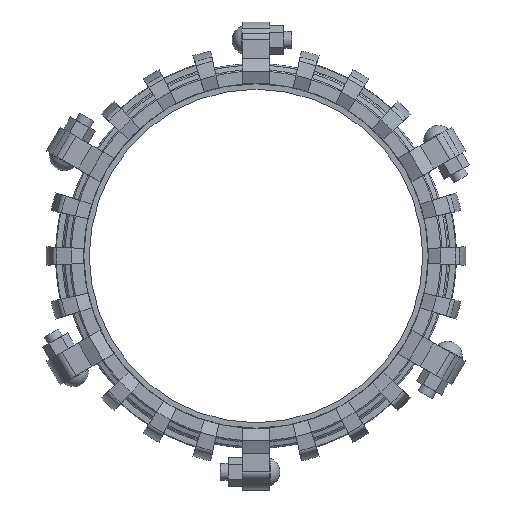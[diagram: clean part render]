
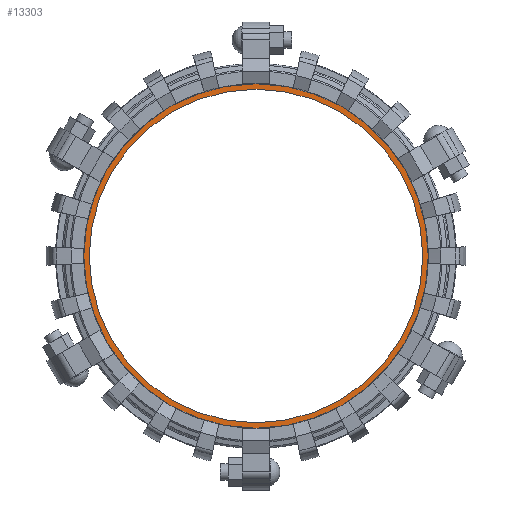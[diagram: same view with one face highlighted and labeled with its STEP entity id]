
A CAD part, top view. The second image highlights one B-rep face of the part: STEP entity #13303.
In plain terms, the highlighted planar face has unit normal (0, 0, 1).
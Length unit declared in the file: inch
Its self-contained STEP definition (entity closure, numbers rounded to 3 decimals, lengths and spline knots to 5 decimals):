
#447=FACE_BOUND('',#1445,.T.);
#481=PLANE('',#14051);
#726=FACE_OUTER_BOUND('',#1444,.T.);
#1444=EDGE_LOOP('',(#8406,#8407));
#1445=EDGE_LOOP('',(#8408));
#4015=CIRCLE('',#14047,15.25);
#4018=CIRCLE('',#14052,16.25);
#4019=CIRCLE('',#14053,16.25);
#5049=VERTEX_POINT('',#20254);
#5052=VERTEX_POINT('',#20263);
#5053=VERTEX_POINT('',#20264);
#6384=EDGE_CURVE('',#5049,#5049,#4015,.T.);
#6387=EDGE_CURVE('',#5052,#5053,#4018,.T.);
#6388=EDGE_CURVE('',#5053,#5052,#4019,.T.);
#8406=ORIENTED_EDGE('',*,*,#6387,.F.);
#8407=ORIENTED_EDGE('',*,*,#6388,.F.);
#8408=ORIENTED_EDGE('',*,*,#6384,.T.);
#13303=ADVANCED_FACE('',(#726,#447),#481,.T.);
#14047=AXIS2_PLACEMENT_3D('',#20256,#15816,#15817);
#14051=AXIS2_PLACEMENT_3D('',#20262,#15824,#15825);
#14052=AXIS2_PLACEMENT_3D('',#20265,#15826,#15827);
#14053=AXIS2_PLACEMENT_3D('',#20266,#15828,#15829);
#15816=DIRECTION('center_axis',(0.,0.,-1.));
#15817=DIRECTION('ref_axis',(0.,-1.,0.));
#15824=DIRECTION('center_axis',(0.,0.,1.));
#15825=DIRECTION('ref_axis',(1.,0.,0.));
#15826=DIRECTION('center_axis',(0.,0.,-1.));
#15827=DIRECTION('ref_axis',(0.,1.,0.));
#15828=DIRECTION('center_axis',(0.,0.,-1.));
#15829=DIRECTION('ref_axis',(0.,1.,0.));
#20254=CARTESIAN_POINT('',(0.,15.25,0.125));
#20256=CARTESIAN_POINT('Origin',(0.,0.,0.125));
#20262=CARTESIAN_POINT('Origin',(0.,0.,
0.125));
#20263=CARTESIAN_POINT('',(0.,16.25,0.125));
#20264=CARTESIAN_POINT('',(0.,-16.25,0.125));
#20265=CARTESIAN_POINT('Origin',(0.,0.,
0.125));
#20266=CARTESIAN_POINT('Origin',(0.,0.,
0.125));
